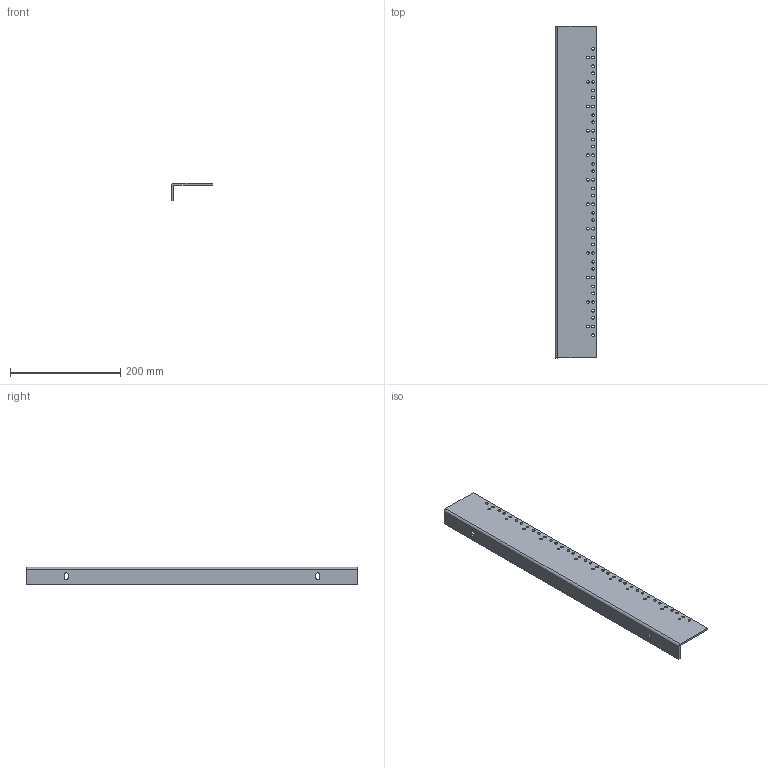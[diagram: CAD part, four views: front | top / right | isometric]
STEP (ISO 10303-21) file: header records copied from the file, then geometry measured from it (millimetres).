
FILE_DESCRIPTION((''),'1');
FILE_NAME('1','2001-04-18T',('jlue'),(''),'PRO/ENGINEER BY PARAMETRIC TECHNOLOGY CORPORATION, 9846','PRO/ENGINEER BY PARAMETRIC TECHNOLOGY CORPORATION, 9846','');
FILE_SCHEMA(('CONFIG_CONTROL_DESIGN'));
Length unit declared in the file: inch
Products named in the file (1): 1
Bounding box: 75.01 x 603.25 x 31.75 mm (x, y, z)
Surface area: 128770.2 mm2 (no closed solid volume)
Topology: 0 solids, 0 shells, 114 faces, 720 edges, 768 vertices
Faces by surface type: cylinder 102, plane 12
Entity records: 3740 total; most frequent: DIRECTION 816, COMPOSITE_CURVE_SEGMENT 672, CARTESIAN_POINT 498, TRIMMED_CURVE 384, AXIS2_PLACEMENT_3D 318, CIRCLE 204, VECTOR 180, LINE 180
